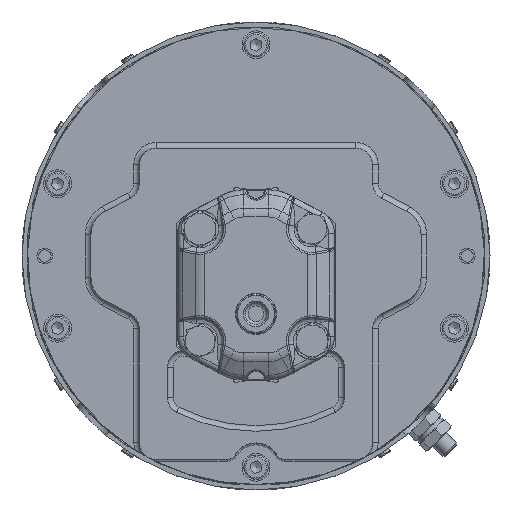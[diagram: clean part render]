
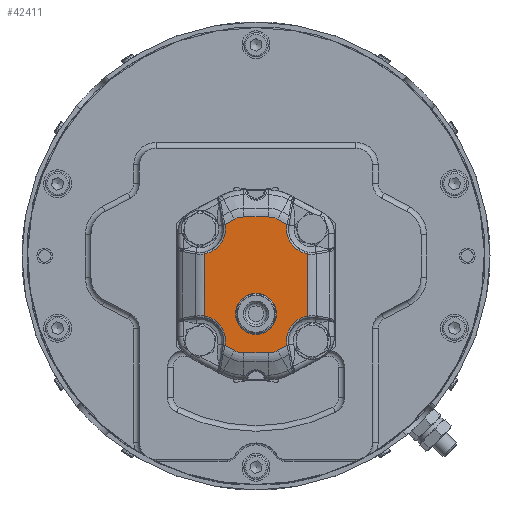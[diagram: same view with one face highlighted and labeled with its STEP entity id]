
A CAD part, front view. The second image highlights one B-rep face of the part: STEP entity #42411.
In plain terms, the highlighted planar face has unit normal (0, -1, 0).
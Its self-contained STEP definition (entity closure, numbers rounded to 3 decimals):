
#846=FACE_BOUND('',#5494,.T.);
#1286=PLANE('',#45156);
#2949=FACE_OUTER_BOUND('',#5493,.T.);
#5493=EDGE_LOOP('',(#27332,#27333,#27334,#27335,#27336,#27337,#27338,#27339,
#27340,#27341,#27342,#27343,#27344,#27345,#27346,#27347,#27348,#27349,#27350,
#27351));
#5494=EDGE_LOOP('',(#27352));
#8888=CIRCLE('',#45134,13.596);
#8899=CIRCLE('',#45157,13.596);
#8900=CIRCLE('',#45158,10.466);
#8901=CIRCLE('',#45159,10.466);
#8902=CIRCLE('',#45160,13.596);
#8903=CIRCLE('',#45161,13.596);
#8904=CIRCLE('',#45162,10.466);
#8905=CIRCLE('',#45163,10.466);
#8906=CIRCLE('',#45164,11.);
#11348=LINE('',#66862,#14086);
#11351=LINE('',#66944,#14089);
#11352=LINE('',#66948,#14090);
#11353=LINE('',#66950,#14091);
#11354=LINE('',#66954,#14092);
#11355=LINE('',#66958,#14093);
#11356=LINE('',#66960,#14094);
#11357=LINE('',#66964,#14095);
#11358=LINE('',#66968,#14096);
#11359=LINE('',#66970,#14097);
#11360=LINE('',#66974,#14098);
#11361=LINE('',#66977,#14099);
#14086=VECTOR('',#50559,0.13);
#14089=VECTOR('',#50580,33.284);
#14090=VECTOR('',#50583,0.13);
#14091=VECTOR('',#50584,5.676);
#14092=VECTOR('',#50587,13.302);
#14093=VECTOR('',#50590,5.676);
#14094=VECTOR('',#50591,0.13);
#14095=VECTOR('',#50594,33.284);
#14096=VECTOR('',#50597,0.13);
#14097=VECTOR('',#50598,5.676);
#14098=VECTOR('',#50601,13.302);
#14099=VECTOR('',#50604,5.676);
#17006=VERTEX_POINT('',#66647);
#17009=VERTEX_POINT('',#66652);
#17015=VERTEX_POINT('',#66735);
#17028=VERTEX_POINT('',#66943);
#17029=VERTEX_POINT('',#66945);
#17030=VERTEX_POINT('',#66947);
#17031=VERTEX_POINT('',#66949);
#17032=VERTEX_POINT('',#66951);
#17033=VERTEX_POINT('',#66953);
#17034=VERTEX_POINT('',#66955);
#17035=VERTEX_POINT('',#66957);
#17036=VERTEX_POINT('',#66959);
#17037=VERTEX_POINT('',#66961);
#17038=VERTEX_POINT('',#66963);
#17039=VERTEX_POINT('',#66965);
#17040=VERTEX_POINT('',#66967);
#17041=VERTEX_POINT('',#66969);
#17042=VERTEX_POINT('',#66971);
#17043=VERTEX_POINT('',#66973);
#17044=VERTEX_POINT('',#66975);
#17045=VERTEX_POINT('',#66978);
#20963=EDGE_CURVE('',#17009,#17006,#8888,.T.);
#20983=EDGE_CURVE('',#17006,#17015,#11348,.T.);
#20994=EDGE_CURVE('',#17028,#17009,#11351,.T.);
#20995=EDGE_CURVE('',#17029,#17028,#8899,.T.);
#20996=EDGE_CURVE('',#17030,#17029,#11352,.T.);
#20997=EDGE_CURVE('',#17031,#17030,#11353,.T.);
#20998=EDGE_CURVE('',#17032,#17031,#8900,.T.);
#20999=EDGE_CURVE('',#17033,#17032,#11354,.T.);
#21000=EDGE_CURVE('',#17034,#17033,#8901,.T.);
#21001=EDGE_CURVE('',#17035,#17034,#11355,.T.);
#21002=EDGE_CURVE('',#17036,#17035,#11356,.T.);
#21003=EDGE_CURVE('',#17037,#17036,#8902,.T.);
#21004=EDGE_CURVE('',#17038,#17037,#11357,.T.);
#21005=EDGE_CURVE('',#17039,#17038,#8903,.T.);
#21006=EDGE_CURVE('',#17040,#17039,#11358,.T.);
#21007=EDGE_CURVE('',#17041,#17040,#11359,.T.);
#21008=EDGE_CURVE('',#17042,#17041,#8904,.T.);
#21009=EDGE_CURVE('',#17043,#17042,#11360,.T.);
#21010=EDGE_CURVE('',#17044,#17043,#8905,.T.);
#21011=EDGE_CURVE('',#17015,#17044,#11361,.T.);
#21012=EDGE_CURVE('',#17045,#17045,#8906,.T.);
#27332=ORIENTED_EDGE('',*,*,#20983,.F.);
#27333=ORIENTED_EDGE('',*,*,#20963,.F.);
#27334=ORIENTED_EDGE('',*,*,#20994,.F.);
#27335=ORIENTED_EDGE('',*,*,#20995,.F.);
#27336=ORIENTED_EDGE('',*,*,#20996,.F.);
#27337=ORIENTED_EDGE('',*,*,#20997,.F.);
#27338=ORIENTED_EDGE('',*,*,#20998,.F.);
#27339=ORIENTED_EDGE('',*,*,#20999,.F.);
#27340=ORIENTED_EDGE('',*,*,#21000,.F.);
#27341=ORIENTED_EDGE('',*,*,#21001,.F.);
#27342=ORIENTED_EDGE('',*,*,#21002,.F.);
#27343=ORIENTED_EDGE('',*,*,#21003,.F.);
#27344=ORIENTED_EDGE('',*,*,#21004,.F.);
#27345=ORIENTED_EDGE('',*,*,#21005,.F.);
#27346=ORIENTED_EDGE('',*,*,#21006,.F.);
#27347=ORIENTED_EDGE('',*,*,#21007,.F.);
#27348=ORIENTED_EDGE('',*,*,#21008,.F.);
#27349=ORIENTED_EDGE('',*,*,#21009,.F.);
#27350=ORIENTED_EDGE('',*,*,#21010,.F.);
#27351=ORIENTED_EDGE('',*,*,#21011,.F.);
#27352=ORIENTED_EDGE('',*,*,#21012,.F.);
#42411=ADVANCED_FACE('',(#2949,#846),#1286,.T.);
#45134=AXIS2_PLACEMENT_3D('',#66654,#50528,#50529);
#45156=AXIS2_PLACEMENT_3D('',#66942,#50578,#50579);
#45157=AXIS2_PLACEMENT_3D('',#66946,#50581,#50582);
#45158=AXIS2_PLACEMENT_3D('',#66952,#50585,#50586);
#45159=AXIS2_PLACEMENT_3D('',#66956,#50588,#50589);
#45160=AXIS2_PLACEMENT_3D('',#66962,#50592,#50593);
#45161=AXIS2_PLACEMENT_3D('',#66966,#50595,#50596);
#45162=AXIS2_PLACEMENT_3D('',#66972,#50599,#50600);
#45163=AXIS2_PLACEMENT_3D('',#66976,#50602,#50603);
#45164=AXIS2_PLACEMENT_3D('',#66979,#50605,#50606);
#50528=DIRECTION('center_axis',(0.,-1.,0.));
#50529=DIRECTION('ref_axis',(-0.823,0.,0.569));
#50559=DIRECTION('',(0.174,0.,-0.985));
#50578=DIRECTION('center_axis',(0.,-1.,0.));
#50579=DIRECTION('ref_axis',(1.,0.,0.));
#50580=DIRECTION('',(0.,0.,-1.));
#50581=DIRECTION('center_axis',(0.,-1.,0.));
#50582=DIRECTION('ref_axis',(-0.823,0.,-0.569));
#50583=DIRECTION('',(-0.174,0.,-0.985));
#50584=DIRECTION('',(0.879,0.,-0.477));
#50585=DIRECTION('center_axis',(0.,1.,0.));
#50586=DIRECTION('ref_axis',(0.246,0.,0.969));
#50587=DIRECTION('',(1.,0.,0.));
#50588=DIRECTION('center_axis',(0.,1.,0.));
#50589=DIRECTION('ref_axis',(-0.246,0.,0.969));
#50590=DIRECTION('',(0.879,0.,0.477));
#50591=DIRECTION('',(-0.174,0.,0.985));
#50592=DIRECTION('center_axis',(0.,-1.,0.));
#50593=DIRECTION('ref_axis',(0.823,0.,-0.569));
#50594=DIRECTION('',(0.,0.,1.));
#50595=DIRECTION('center_axis',(0.,-1.,0.));
#50596=DIRECTION('ref_axis',(0.823,0.,0.569));
#50597=DIRECTION('',(0.174,0.,0.985));
#50598=DIRECTION('',(-0.879,0.,0.477));
#50599=DIRECTION('center_axis',(0.,1.,0.));
#50600=DIRECTION('ref_axis',(-0.246,0.,-0.969));
#50601=DIRECTION('',(-1.,0.,0.));
#50602=DIRECTION('center_axis',(0.,1.,0.));
#50603=DIRECTION('ref_axis',(0.246,0.,-0.969));
#50604=DIRECTION('',(-0.879,0.,-0.477));
#50605=DIRECTION('center_axis',(0.,-1.,0.));
#50606=DIRECTION('ref_axis',(1.,0.,0.));
#66647=CARTESIAN_POINT('',(16.61,-101.3,-47.871));
#66652=CARTESIAN_POINT('',(27.466,-101.3,-32.152));
#66654=CARTESIAN_POINT('Origin',(30.,-101.3,-45.51));
#66735=CARTESIAN_POINT('',(16.633,-101.3,-47.999));
#66862=CARTESIAN_POINT('',(16.61,-101.3,-47.871));
#66942=CARTESIAN_POINT('Origin',(13.,-101.3,-66.51));
#66943=CARTESIAN_POINT('',(27.466,-101.3,1.132));
#66944=CARTESIAN_POINT('',(27.466,-101.3,1.132));
#66945=CARTESIAN_POINT('',(16.61,-101.3,16.851));
#66946=CARTESIAN_POINT('Origin',(30.,-101.3,14.49));
#66947=CARTESIAN_POINT('',(16.633,-101.3,16.979));
#66948=CARTESIAN_POINT('',(16.633,-101.3,16.979));
#66949=CARTESIAN_POINT('',(11.645,-101.3,19.687));
#66950=CARTESIAN_POINT('',(11.645,-101.3,19.687));
#66951=CARTESIAN_POINT('',(6.651,-101.3,20.956));
#66952=CARTESIAN_POINT('Origin',(6.651,-101.3,10.49));
#66953=CARTESIAN_POINT('',(-6.651,-101.3,20.956));
#66954=CARTESIAN_POINT('',(-6.651,-101.3,20.956));
#66955=CARTESIAN_POINT('',(-11.645,-101.3,19.687));
#66956=CARTESIAN_POINT('Origin',(-6.651,-101.3,10.49));
#66957=CARTESIAN_POINT('',(-16.633,-101.3,16.979));
#66958=CARTESIAN_POINT('',(-16.633,-101.3,16.979));
#66959=CARTESIAN_POINT('',(-16.61,-101.3,16.851));
#66960=CARTESIAN_POINT('',(-16.61,-101.3,16.851));
#66961=CARTESIAN_POINT('',(-27.466,-101.3,1.132));
#66962=CARTESIAN_POINT('Origin',(-30.,-101.3,14.49));
#66963=CARTESIAN_POINT('',(-27.466,-101.3,-32.152));
#66964=CARTESIAN_POINT('',(-27.466,-101.3,-32.152));
#66965=CARTESIAN_POINT('',(-16.61,-101.3,-47.871));
#66966=CARTESIAN_POINT('Origin',(-30.,-101.3,-45.51));
#66967=CARTESIAN_POINT('',(-16.633,-101.3,-47.999));
#66968=CARTESIAN_POINT('',(-16.633,-101.3,-47.999));
#66969=CARTESIAN_POINT('',(-11.645,-101.3,-50.707));
#66970=CARTESIAN_POINT('',(-11.645,-101.3,-50.707));
#66971=CARTESIAN_POINT('',(-6.651,-101.3,-51.976));
#66972=CARTESIAN_POINT('Origin',(-6.651,-101.3,-41.51));
#66973=CARTESIAN_POINT('',(6.651,-101.3,-51.976));
#66974=CARTESIAN_POINT('',(6.651,-101.3,-51.976));
#66975=CARTESIAN_POINT('',(11.645,-101.3,-50.707));
#66976=CARTESIAN_POINT('Origin',(6.651,-101.3,-41.51));
#66977=CARTESIAN_POINT('',(16.633,-101.3,-47.999));
#66978=CARTESIAN_POINT('',(11.,-101.3,-31.01));
#66979=CARTESIAN_POINT('Origin',(0.,-101.3,-31.01));
